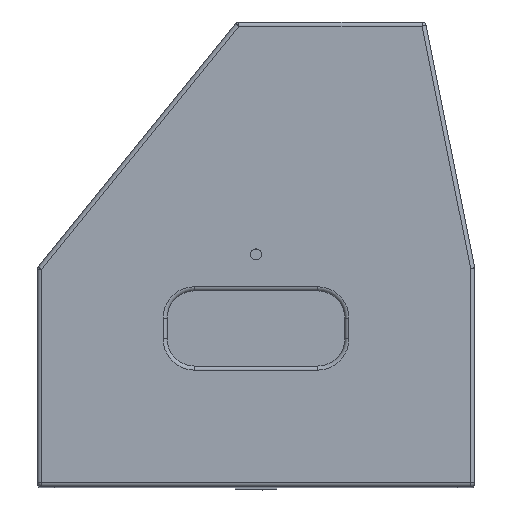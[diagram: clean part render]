
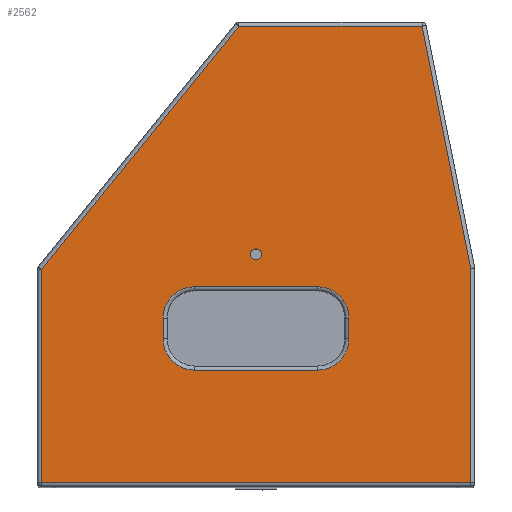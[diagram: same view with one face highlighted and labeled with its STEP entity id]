
A CAD part, top view. The second image highlights one B-rep face of the part: STEP entity #2562.
In plain terms, the highlighted planar face has unit normal (0, 0, 1).
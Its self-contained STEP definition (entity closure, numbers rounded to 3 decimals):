
#30=FACE_BOUND('',#808,.T.);
#31=FACE_BOUND('',#809,.T.);
#69=PLANE('',#2802);
#180=LINE('',#4037,#382);
#182=LINE('',#4049,#384);
#184=LINE('',#4061,#386);
#186=LINE('',#4070,#388);
#193=LINE('',#4084,#395);
#194=LINE('',#4086,#396);
#195=LINE('',#4088,#397);
#196=LINE('',#4090,#398);
#197=LINE('',#4092,#399);
#198=LINE('',#4093,#400);
#382=VECTOR('',#3230,10.);
#384=VECTOR('',#3244,10.);
#386=VECTOR('',#3258,10.);
#388=VECTOR('',#3270,10.);
#395=VECTOR('',#3287,10.);
#396=VECTOR('',#3288,10.);
#397=VECTOR('',#3289,10.);
#398=VECTOR('',#3290,10.);
#399=VECTOR('',#3291,10.);
#400=VECTOR('',#3292,10.);
#639=FACE_OUTER_BOUND('',#807,.T.);
#807=EDGE_LOOP('',(#1863,#1864,#1865,#1866,#1867,#1868));
#808=EDGE_LOOP('',(#1869));
#809=EDGE_LOOP('',(#1870,#1871,#1872,#1873,#1874,#1875,#1876,#1877));
#982=CIRCLE('',#2778,23.);
#985=CIRCLE('',#2783,23.);
#989=CIRCLE('',#2789,23.);
#993=CIRCLE('',#2795,23.);
#995=CIRCLE('',#2803,4.);
#1149=VERTEX_POINT('',#4025);
#1152=VERTEX_POINT('',#4030);
#1154=VERTEX_POINT('',#4035);
#1156=VERTEX_POINT('',#4041);
#1158=VERTEX_POINT('',#4047);
#1160=VERTEX_POINT('',#4053);
#1162=VERTEX_POINT('',#4059);
#1164=VERTEX_POINT('',#4065);
#1165=VERTEX_POINT('',#4082);
#1166=VERTEX_POINT('',#4083);
#1167=VERTEX_POINT('',#4085);
#1168=VERTEX_POINT('',#4087);
#1169=VERTEX_POINT('',#4089);
#1170=VERTEX_POINT('',#4091);
#1171=VERTEX_POINT('',#4094);
#1392=EDGE_CURVE('',#1152,#1149,#982,.T.);
#1394=EDGE_CURVE('',#1154,#1152,#180,.T.);
#1397=EDGE_CURVE('',#1156,#1154,#985,.T.);
#1400=EDGE_CURVE('',#1158,#1156,#182,.T.);
#1403=EDGE_CURVE('',#1160,#1158,#989,.T.);
#1406=EDGE_CURVE('',#1162,#1160,#184,.T.);
#1409=EDGE_CURVE('',#1164,#1162,#993,.T.);
#1411=EDGE_CURVE('',#1149,#1164,#186,.T.);
#1418=EDGE_CURVE('',#1165,#1166,#193,.T.);
#1419=EDGE_CURVE('',#1167,#1165,#194,.T.);
#1420=EDGE_CURVE('',#1168,#1167,#195,.T.);
#1421=EDGE_CURVE('',#1169,#1168,#196,.T.);
#1422=EDGE_CURVE('',#1170,#1169,#197,.T.);
#1423=EDGE_CURVE('',#1166,#1170,#198,.T.);
#1424=EDGE_CURVE('',#1171,#1171,#995,.T.);
#1863=ORIENTED_EDGE('',*,*,#1418,.F.);
#1864=ORIENTED_EDGE('',*,*,#1419,.F.);
#1865=ORIENTED_EDGE('',*,*,#1420,.F.);
#1866=ORIENTED_EDGE('',*,*,#1421,.F.);
#1867=ORIENTED_EDGE('',*,*,#1422,.F.);
#1868=ORIENTED_EDGE('',*,*,#1423,.F.);
#1869=ORIENTED_EDGE('',*,*,#1424,.T.);
#1870=ORIENTED_EDGE('',*,*,#1392,.F.);
#1871=ORIENTED_EDGE('',*,*,#1394,.F.);
#1872=ORIENTED_EDGE('',*,*,#1397,.F.);
#1873=ORIENTED_EDGE('',*,*,#1400,.F.);
#1874=ORIENTED_EDGE('',*,*,#1403,.F.);
#1875=ORIENTED_EDGE('',*,*,#1406,.F.);
#1876=ORIENTED_EDGE('',*,*,#1409,.F.);
#1877=ORIENTED_EDGE('',*,*,#1411,.F.);
#2562=ADVANCED_FACE('',(#639,#30,#31),#69,.T.);
#2778=AXIS2_PLACEMENT_3D('',#4032,#3224,#3225);
#2783=AXIS2_PLACEMENT_3D('',#4043,#3236,#3237);
#2789=AXIS2_PLACEMENT_3D('',#4055,#3250,#3251);
#2795=AXIS2_PLACEMENT_3D('',#4067,#3264,#3265);
#2802=AXIS2_PLACEMENT_3D('',#4081,#3285,#3286);
#2803=AXIS2_PLACEMENT_3D('',#4095,#3293,#3294);
#3224=DIRECTION('center_axis',(0.,0.,1.));
#3225=DIRECTION('ref_axis',(0.707,0.707,0.));
#3230=DIRECTION('',(0.,1.,0.));
#3236=DIRECTION('center_axis',(0.,0.,1.));
#3237=DIRECTION('ref_axis',(0.707,-0.707,0.));
#3244=DIRECTION('',(1.,0.,0.));
#3250=DIRECTION('center_axis',(0.,0.,1.));
#3251=DIRECTION('ref_axis',(-0.707,-0.707,0.));
#3258=DIRECTION('',(0.,-1.,0.));
#3264=DIRECTION('center_axis',(0.,0.,1.));
#3265=DIRECTION('ref_axis',(-0.707,0.707,0.));
#3270=DIRECTION('',(-1.,0.,0.));
#3285=DIRECTION('center_axis',(0.,0.,1.));
#3286=DIRECTION('ref_axis',(1.,0.,0.));
#3287=DIRECTION('',(-1.,0.,0.));
#3288=DIRECTION('',(0.,-1.,0.));
#3289=DIRECTION('',(0.196,-0.981,0.));
#3290=DIRECTION('',(1.,0.,0.));
#3291=DIRECTION('',(0.63,0.777,0.));
#3292=DIRECTION('',(0.,1.,0.));
#3293=DIRECTION('center_axis',(0.,0.,-1.));
#3294=DIRECTION('ref_axis',(1.,0.,0.));
#4025=CARTESIAN_POINT('',(45.,-23.674,520.));
#4030=CARTESIAN_POINT('',(68.,-46.674,520.));
#4032=CARTESIAN_POINT('Origin',(45.,-46.674,520.));
#4035=CARTESIAN_POINT('',(68.,-61.674,520.));
#4037=CARTESIAN_POINT('',(68.,-23.337,520.));
#4041=CARTESIAN_POINT('',(45.,-84.674,520.));
#4043=CARTESIAN_POINT('Origin',(45.,-61.674,520.));
#4047=CARTESIAN_POINT('',(-45.,-84.674,520.));
#4049=CARTESIAN_POINT('',(22.5,-84.674,520.));
#4053=CARTESIAN_POINT('',(-68.,-61.674,520.));
#4055=CARTESIAN_POINT('Origin',(-45.,-61.674,520.));
#4059=CARTESIAN_POINT('',(-68.,-46.674,520.));
#4061=CARTESIAN_POINT('',(-68.,-30.837,520.));
#4065=CARTESIAN_POINT('',(-45.,-23.674,520.));
#4067=CARTESIAN_POINT('Origin',(-45.,-46.674,520.));
#4070=CARTESIAN_POINT('',(-22.5,-23.674,520.));
#4081=CARTESIAN_POINT('Origin',(0.,0.,520.));
#4082=CARTESIAN_POINT('',(157.,-167.,520.));
#4083=CARTESIAN_POINT('',(-157.,-167.,520.));
#4084=CARTESIAN_POINT('',(-78.5,-167.,520.));
#4085=CARTESIAN_POINT('',(157.,-10.297,520.));
#4086=CARTESIAN_POINT('',(157.,-83.5,520.));
#4087=CARTESIAN_POINT('',(121.541,167.,520.));
#4088=CARTESIAN_POINT('',(152.991,9.75,520.));
#4089=CARTESIAN_POINT('',(-12.571,167.,520.));
#4090=CARTESIAN_POINT('',(60.77,167.,520.));
#4091=CARTESIAN_POINT('',(-157.,-11.064,520.));
#4092=CARTESIAN_POINT('',(-50.928,119.71,520.));
#4093=CARTESIAN_POINT('',(-157.,-5.532,520.));
#4094=CARTESIAN_POINT('',(-4.,0.,520.));
#4095=CARTESIAN_POINT('Origin',(0.,0.,520.));
